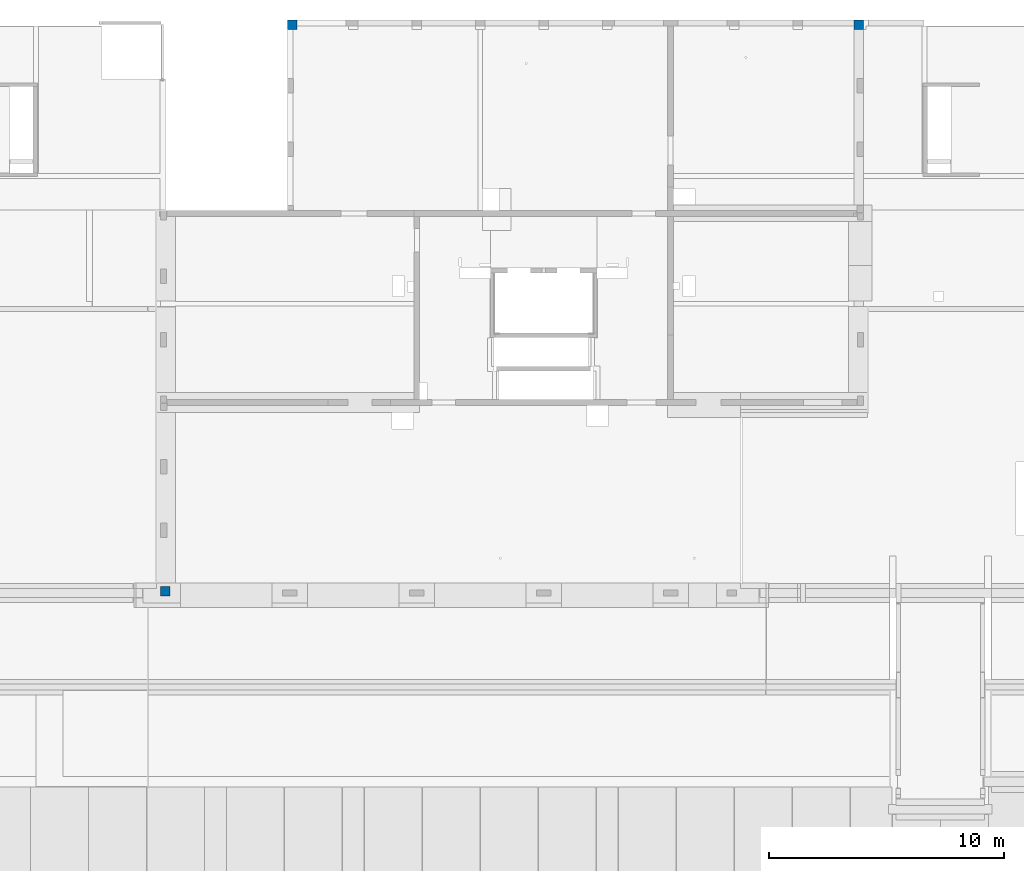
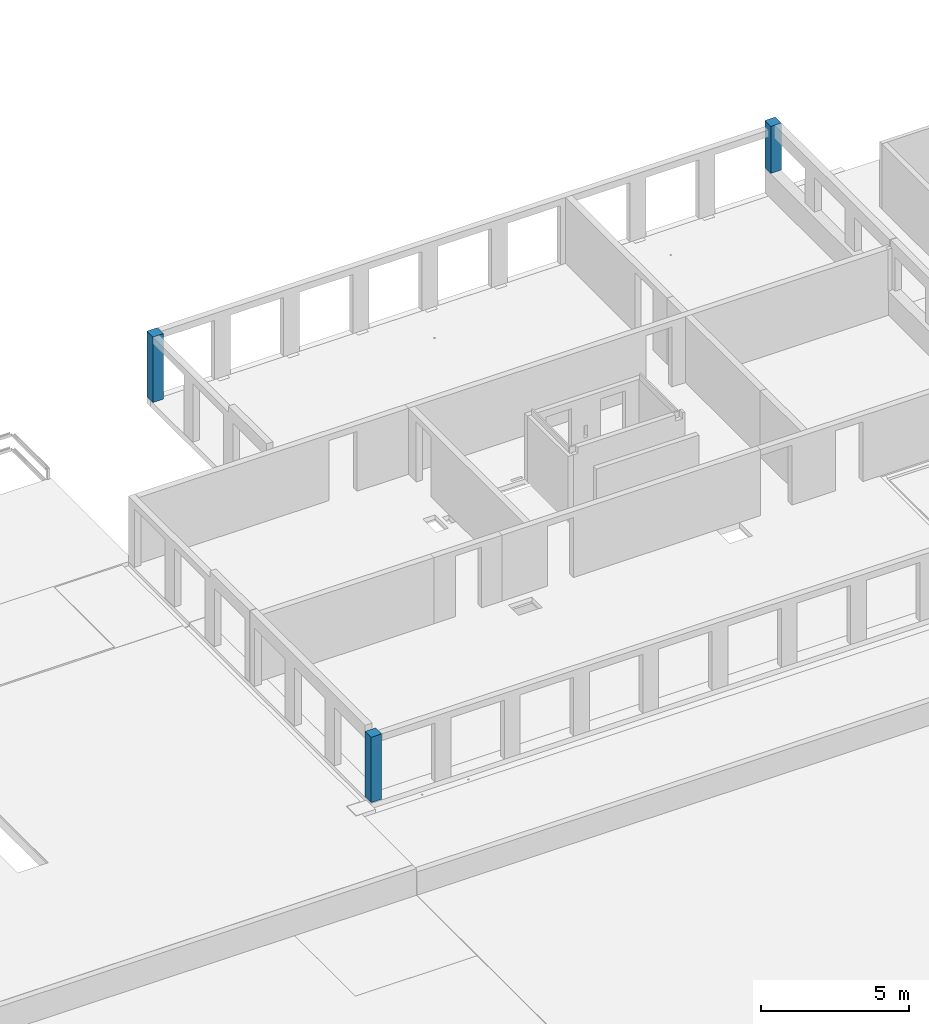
# One storey, part 3 of 36: 3 columns.
"""IFC2X3 building model written with IfcOpenShell, lengths in millimetres."""

import ifcopenshell
import ifcopenshell.guid

model = None  # the IFC model being written
_history = None  # IfcOwnerHistory: only IFC2X3 demands one
_inside = {}  # id of a spatial element -> (the spatial element, [elements in it])
_under = {}  # id of a project, library or spatial element -> (it, [spatial elements below it])
_declared = {}  # id of a project -> (the project, [libraries it declares])
_typed = {}  # id of a type object -> (the type object, [elements of that type])
_made_of = {}  # id of a material, layer set ... -> (it, [elements and type objects made of it])


def new_model(schema):
    """Start an empty IFC model of exactly this schema.

    Asked for "IFC4X3", IfcOpenShell would pick the latest addendum, in which some entities
    have other attributes; the version numbers below select the first issue.
    IFC2X3 requires an IfcOwnerHistory on every rooted entity: one is made here for all.
    """
    global model, _history
    if schema == "IFC4X3":
        model = ifcopenshell.file(schema_version=(4, 3, 0, 0))
    else:
        model = ifcopenshell.file(schema=schema)
    _inside.clear()
    _under.clear()
    _declared.clear()
    _typed.clear()
    _made_of.clear()
    _history = None
    if model.schema == "IFC2X3":
        org = make("IfcOrganization", Name="unknown")
        user = make(
            "IfcPersonAndOrganization",
            ThePerson=make("IfcPerson", FamilyName="unknown"),
            TheOrganization=org,
        )
        app = make(
            "IfcApplication",
            ApplicationDeveloper=org,
            Version="unknown",
            ApplicationFullName="unknown",
            ApplicationIdentifier="unknown",
        )
        _history = make(
            "IfcOwnerHistory",
            OwningUser=user,
            OwningApplication=app,
            ChangeAction="ADDED",
            CreationDate=0,
        )
    return model


def make(cls, **values):
    """One entity of the class cls with the attributes given. An attribute that is None is left unset."""
    return model.create_entity(
        cls, **{name: value for name, value in values.items() if value is not None}
    )


def entity(cls, *values):
    """Any entity or typed value of the class cls, its attributes in the order of the schema. None: left unset."""
    e = model.create_entity(cls)
    for i, value in enumerate(values):
        if value is not None:
            e[i] = value
    return e


def rooted(cls, **values):
    """An entity with a GlobalId (a new one), such as an element, a storey or a relation."""
    return make(cls, GlobalId=ifcopenshell.guid.new(), OwnerHistory=_history, **values)


def si_unit(unit_type, name, prefix=None):
    """IfcSIUnit, for example si_unit("LENGTHUNIT", "METRE", prefix="MILLI")."""
    return make("IfcSIUnit", UnitType=unit_type, Prefix=prefix, Name=name)


def converted_unit(unit_type, name, factor, base, dimensions=None, offset=None):
    """IfcConversionBasedUnit, such as the inch: factor (a typed value) times the base unit."""
    return make(
        "IfcConversionBasedUnit"
        if offset is None
        else "IfcConversionBasedUnitWithOffset",
        ConversionOffset=offset,
        Dimensions=None
        if dimensions is None
        else entity("IfcDimensionalExponents", *dimensions),
        UnitType=unit_type,
        Name=name,
        ConversionFactor=make(
            "IfcMeasureWithUnit", ValueComponent=factor, UnitComponent=base
        ),
    )


def derived_unit(unit_type, elements):
    """IfcDerivedUnit: a product of units, each with its exponent."""
    return make(
        "IfcDerivedUnit",
        Elements=[
            make("IfcDerivedUnitElement", Unit=unit, Exponent=power)
            for unit, power in elements
        ],
        UnitType=unit_type,
    )


def assignment(units):
    """IfcUnitAssignment: the units of a project."""
    return None if units is None else make("IfcUnitAssignment", Units=units)


def point(xyz):
    """IfcCartesianPoint."""
    return None if xyz is None else make("IfcCartesianPoint", Coordinates=xyz)


def direction(xyz):
    """IfcDirection."""
    return None if xyz is None else make("IfcDirection", DirectionRatios=xyz)


def frame(location, z_axis=None, x_axis=None):
    """IfcAxis2Placement3D, a coordinate frame: its origin and axes. An axis left out is left unset."""
    return make(
        "IfcAxis2Placement3D",
        Location=point(location),
        Axis=direction(z_axis),
        RefDirection=direction(x_axis),
    )


def frame_2d(location, x_axis=None):
    """IfcAxis2Placement2D, a coordinate frame in the plane: its origin and x axis."""
    return make(
        "IfcAxis2Placement2D", Location=point(location), RefDirection=direction(x_axis)
    )


def origin():
    """The frame at (0, 0, 0) with its axes left unset."""
    return frame((0.0, 0.0, 0.0))


def origin_2d_with_axis():
    """The frame at (0, 0) in the plane with the x axis (1, 0) written out."""
    return frame_2d((0.0, 0.0), x_axis=(1.0, 0.0))


def place(relative_to, where):
    """IfcLocalPlacement: puts the frame where relative to a parent placement (None: the world)."""
    return make(
        "IfcLocalPlacement", PlacementRelTo=relative_to, RelativePlacement=where
    )


def context(
    kind, dimensions, precision=None, world=None, true_north=None, identifier=None
):
    """IfcGeometricRepresentationContext, for example the 3D "Model" context."""
    return make(
        "IfcGeometricRepresentationContext",
        ContextIdentifier=identifier,
        ContextType=kind,
        CoordinateSpaceDimension=dimensions,
        Precision=precision,
        WorldCoordinateSystem=world,
        TrueNorth=true_north,
    )


def subcontext(parent, identifier, kind, view, scale=None):
    """IfcGeometricRepresentationSubContext, for example "Body" below "Model"."""
    return make(
        "IfcGeometricRepresentationSubContext",
        ContextIdentifier=identifier,
        ContextType=kind,
        ParentContext=parent,
        TargetScale=scale,
        TargetView=view,
    )


def project(units=None, contexts=None):
    """IfcProject with its units and contexts."""
    return rooted(
        "IfcProject",
        Name="project",
        RepresentationContexts=contexts,
        UnitsInContext=assignment(units),
    )


def spatial(cls, under=None, at=None, **own):
    """A site, building, storey or space (cls), placed at a placement, below another one or the project."""
    s = rooted(cls, ObjectPlacement=at, **own)
    if under is not None:
        _under.setdefault(under.id(), (under, []))[1].append(s)
    return s


def profile(cls, at=None, kind="AREA", **sizes):
    """A parametric profile (cls). Its sizes go by their IFC names, for example OverallWidth=200.0."""
    return make(cls, ProfileType=kind, Position=at, **sizes)


def rectangle(**sizes):
    """IfcRectangleProfileDef."""
    return profile("IfcRectangleProfileDef", **sizes)


def extrude(swept, where, along, depth):
    """IfcExtrudedAreaSolid: the profile swept, set in the frame where, extruded along a direction by depth."""
    return make(
        "IfcExtrudedAreaSolid",
        SweptArea=swept,
        Position=where,
        ExtrudedDirection=direction(along),
        Depth=depth,
    )


def shape(context_of_items, identifier, shape_type, items):
    """IfcShapeRepresentation: the items that make up one representation, for example the "Body"."""
    return make(
        "IfcShapeRepresentation",
        ContextOfItems=context_of_items,
        RepresentationIdentifier=identifier,
        RepresentationType=shape_type,
        Items=items,
    )


def source(mapping_origin, context_of_items, identifier, shape_type, items):
    """IfcRepresentationMap: a shape defined once, which mapped items show again and again."""
    return make(
        "IfcRepresentationMap",
        MappingOrigin=mapping_origin,
        MappedRepresentation=shape(context_of_items, identifier, shape_type, items),
    )


def transform(
    local_origin,
    x_axis=None,
    y_axis=None,
    z_axis=None,
    scale=None,
    scale2=None,
    scale3=None,
    uniform=True,
):
    """IfcCartesianTransformationOperator3D, or its non-uniform kind. x_axis, y_axis, z_axis: its Axis1, 2, 3."""
    if uniform:
        return make(
            "IfcCartesianTransformationOperator3D",
            Axis1=direction(x_axis),
            Axis2=direction(y_axis),
            LocalOrigin=point(local_origin),
            Scale=scale,
            Axis3=direction(z_axis),
        )
    return make(
        "IfcCartesianTransformationOperator3DnonUniform",
        Axis1=direction(x_axis),
        Axis2=direction(y_axis),
        LocalOrigin=point(local_origin),
        Scale=scale,
        Axis3=direction(z_axis),
        Scale2=scale2,
        Scale3=scale3,
    )


def mapped(mapping_source, mapping_target):
    """IfcMappedItem: shows the shape of a source again, moved by a transform."""
    return make(
        "IfcMappedItem", MappingSource=mapping_source, MappingTarget=mapping_target
    )


def material(Name=None, Category=None):
    """IfcMaterial."""
    return make("IfcMaterial", Name=Name, Category=Category)


def made_of(thing, what):
    """Note that an element or type object is made of a material, layer set ...; save() writes the relation."""
    if what is not None:
        _made_of.setdefault(what.id(), (what, []))[1].append(thing)
    return thing


def type_object(cls, material=None, **own):
    """A type object (cls), such as IfcWallType, which elements share."""
    return made_of(rooted(cls, **own), material)


def type_shapes(of_type, sources):
    """Give a type object the sources (RepresentationMaps) that its elements show as mapped items."""
    of_type.RepresentationMaps = sources


def element(
    cls,
    number,
    at=None,
    inside=None,
    cuts=None,
    type_object=None,
    material=None,
    context=None,
    identifier="Body",
    shape_type=None,
    held_by="IfcProductDefinitionShape",
    body=None,
    shapes=None,
    **own,
):
    """One element of the class cls, such as IfcWall. Its Tag is "e" and its number.

    at: its placement. inside: the storey or other place that contains it. cuts: it is an
    opening in that element (IfcRelVoidsElement). A single representation is given by context,
    identifier, shape_type and body (its items); several are given by shapes. held_by: the class
    of the entity that holds the representations. save() writes the other relations.
    """
    e = rooted(cls, Tag="e%d" % number, ObjectPlacement=at, **own)
    if body is not None:
        shapes = [shape(context, identifier, shape_type, body)]
    if shapes is not None:
        e.Representation = make(held_by, Representations=shapes)
    if inside is not None:
        _inside.setdefault(inside.id(), (inside, []))[1].append(e)
    if cuts is not None:
        rooted(
            "IfcRelVoidsElement", RelatingBuildingElement=cuts, RelatedOpeningElement=e
        )
    if type_object is not None:
        _typed.setdefault(type_object.id(), (type_object, []))[1].append(e)
    return made_of(e, material)


def aggregate(whole, parts):
    """IfcRelAggregates: a whole, such as a stair, and the parts it consists of."""
    return rooted("IfcRelAggregates", RelatingObject=whole, RelatedObjects=parts)


def save(model, path):
    """Write the relations noted so far, then the file.

    IfcRelAggregates (storeys below a building ...), IfcRelContainedInSpatialStructure (elements
    in a storey), IfcRelDefinesByType, IfcRelAssociatesMaterial and IfcRelDeclares: one each for
    every whole, place, type object, material and project.
    """
    for whole, parts in _under.values():
        aggregate(whole, parts)
    for where, things in _inside.values():
        rooted(
            "IfcRelContainedInSpatialStructure",
            RelatedElements=things,
            RelatingStructure=where,
        )
    for kind, things in _typed.values():
        rooted("IfcRelDefinesByType", RelatedObjects=things, RelatingType=kind)
    for what, things in _made_of.values():
        rooted("IfcRelAssociatesMaterial", RelatedObjects=things, RelatingMaterial=what)
    for by, libraries in _declared.values():
        rooted("IfcRelDeclares", RelatingContext=by, RelatedDefinitions=libraries)
    model.write(path)


model = new_model("IFC2X3")

# Units and contexts
model_context = context("Model", 3, precision=0.01, world=origin(), true_north=direction((6.12303176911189e-17, 1.0)))
body_context = subcontext(model_context, "Body", "Model", "MODEL_VIEW")
ifc_project = project(units=[si_unit("LENGTHUNIT", "METRE", prefix="MILLI"), si_unit("AREAUNIT", "SQUARE_METRE"), si_unit("VOLUMEUNIT", "CUBIC_METRE"), converted_unit("PLANEANGLEUNIT", "DEGREE", entity("IfcRatioMeasure", 0.0174532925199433), si_unit("PLANEANGLEUNIT", "RADIAN"), dimensions=[0, 0, 0, 0, 0, 0, 0]), si_unit("MASSUNIT", "GRAM", prefix="KILO"), derived_unit("MASSDENSITYUNIT", [(si_unit("MASSUNIT", "GRAM", prefix="KILO"), 1), (si_unit("LENGTHUNIT", "METRE"), -3)]), si_unit("TIMEUNIT", "SECOND"), si_unit("FREQUENCYUNIT", "HERTZ"), si_unit("THERMODYNAMICTEMPERATUREUNIT", "DEGREE_CELSIUS"), derived_unit("THERMALTRANSMITTANCEUNIT", [(si_unit("MASSUNIT", "GRAM", prefix="KILO"), 1), (si_unit("THERMODYNAMICTEMPERATUREUNIT", "KELVIN"), -1), (si_unit("TIMEUNIT", "SECOND"), -3)]), derived_unit("VOLUMETRICFLOWRATEUNIT", [(si_unit("LENGTHUNIT", "METRE"), 3), (si_unit("TIMEUNIT", "SECOND"), -1)]), si_unit("ELECTRICCURRENTUNIT", "AMPERE"), si_unit("ELECTRICVOLTAGEUNIT", "VOLT"), si_unit("POWERUNIT", "WATT"), si_unit("FORCEUNIT", "NEWTON", prefix="KILO"), si_unit("ILLUMINANCEUNIT", "LUX"), si_unit("LUMINOUSFLUXUNIT", "LUMEN"), si_unit("LUMINOUSINTENSITYUNIT", "CANDELA"), derived_unit("USERDEFINED", [(si_unit("MASSUNIT", "GRAM", prefix="KILO"), -1), (si_unit("LENGTHUNIT", "METRE"), -2), (si_unit("TIMEUNIT", "SECOND"), 3), (si_unit("LUMINOUSFLUXUNIT", "LUMEN"), 1)]), derived_unit("LINEARVELOCITYUNIT", [(si_unit("LENGTHUNIT", "METRE"), 1), (si_unit("TIMEUNIT", "SECOND"), -1)]), si_unit("PRESSUREUNIT", "PASCAL"), derived_unit("USERDEFINED", [(si_unit("LENGTHUNIT", "METRE"), -2), (si_unit("MASSUNIT", "GRAM", prefix="KILO"), 1), (si_unit("TIMEUNIT", "SECOND"), -2)])], contexts=[model_context])

# Site, building, storey
site_placement = place(None, origin())
site = spatial("IfcSite", under=ifc_project, at=site_placement, Name="Default", CompositionType="ELEMENT")
building_placement = place(site_placement, origin())
building = spatial("IfcBuilding", under=site, at=building_placement, Name="niet gebruiken", CompositionType="ELEMENT")
storey_placement = place(building_placement, frame((0.0, 0.0, 12600.0)))
storey = spatial("IfcBuildingStorey", under=building, at=storey_placement, Name="04 vierde verdieping", CompositionType="ELEMENT", Elevation=12600.0)

# Columns
ifc_material = material(Name="NLRS_f2_beton prefab")
column_type_1 = type_object("IfcColumnType", Name="410x410", PredefinedType="COLUMN", material=ifc_material)
shared_shape_1 = source(origin(), body_context, "Body", "SweptSolid", [
    extrude(rectangle(XDim=410.000000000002, YDim=409.999999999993, at=origin_2d_with_axis()), frame((105195.0, 53051.0, 13540.0), z_axis=(0.0, 0.0, 1.0), x_axis=(0.0, -1.0, 0.0)), (0.0, 0.0, 1.0), 1940.0),
])
type_shapes(column_type_1, [shared_shape_1])
column_1_placement = place(storey_placement, frame((0.0, 0.0, -12600.0)))
element("IfcColumn", 1, at=column_1_placement, inside=storey, type_object=column_type_1, material=ifc_material, Name="NLRS_28. kolom vierkant_gen:410x410", ObjectType="410x410", context=body_context, shape_type="MappedRepresentation", body=[
    mapped(shared_shape_1, transform((0.0, 0.0, 0.0), scale=1.0)),
])
column_type_2 = type_object("IfcColumnType", Name="410x410", PredefinedType="COLUMN", material=ifc_material)
shared_shape_2 = source(origin(), body_context, "Body", "SweptSolid", [
    extrude(rectangle(XDim=410.000000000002, YDim=409.999999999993, at=origin_2d_with_axis()), frame((81105.0, 53051.0, 12530.0), z_axis=(0.0, 0.0, 1.0), x_axis=(0.0, -1.0, 0.0)), (0.0, 0.0, 1.0), 2700.0),
])
type_shapes(column_type_2, [shared_shape_2])
column_2_placement = place(storey_placement, frame((0.0, 0.0, -12600.0)))
element("IfcColumn", 2, at=column_2_placement, inside=storey, type_object=column_type_2, material=ifc_material, Name="NLRS_28. kolom vierkant_gen:410x410", ObjectType="410x410", context=body_context, shape_type="MappedRepresentation", body=[
    mapped(shared_shape_2, transform((0.0, 0.0, 0.0), scale=1.0)),
])
column_type_3 = type_object("IfcColumnType", Name="410x410", PredefinedType="COLUMN", material=ifc_material)
shared_shape_3 = source(origin(), body_context, "Body", "SweptSolid", [
    extrude(rectangle(XDim=409.999999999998, YDim=410.000000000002, at=origin_2d_with_axis()), frame((75705.0, 28961.0, 12540.0), z_axis=(0.0, 0.0, 1.0), x_axis=(0.0, -1.0, 0.0)), (0.0, 0.0, 1.0), 2690.0),
])
type_shapes(column_type_3, [shared_shape_3])
column_3_placement = place(storey_placement, frame((0.0, 0.0, -12600.0)))
element("IfcColumn", 3, at=column_3_placement, inside=storey, type_object=column_type_3, material=ifc_material, Name="NLRS_28. kolom vierkant_gen1:410x410", ObjectType="410x410", context=body_context, shape_type="MappedRepresentation", body=[
    mapped(shared_shape_3, transform((0.0, 0.0, 0.0), scale=1.0)),
])

save(model, "model.ifc")
